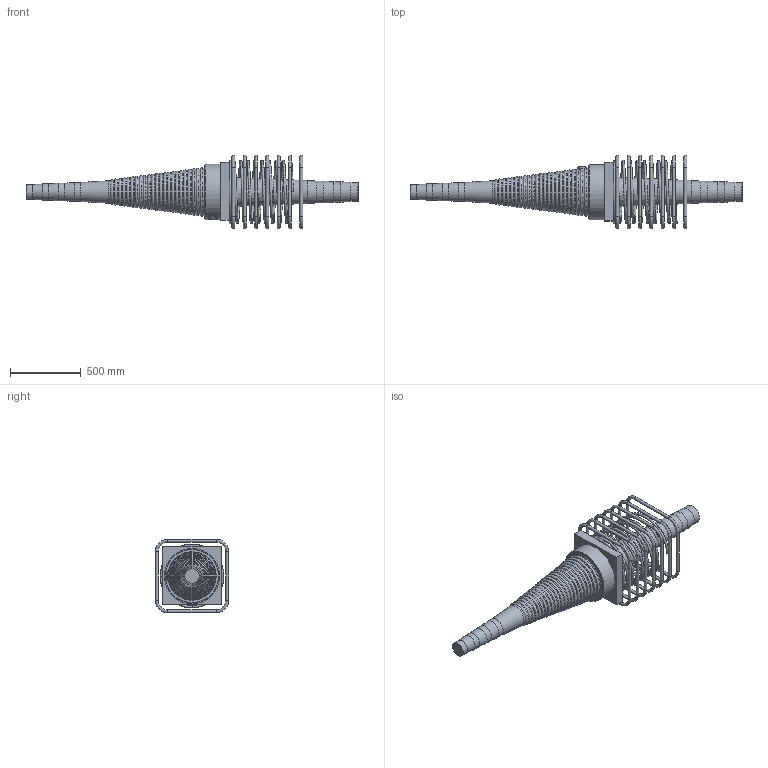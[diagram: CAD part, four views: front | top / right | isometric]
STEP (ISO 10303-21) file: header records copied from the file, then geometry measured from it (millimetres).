
FILE_DESCRIPTION(/* description */ (''),/* implementation_level */ '2;1');
FILE_NAME(/* name */ 'Z:\04 Publications\05 Give-out\BBR\6_3D_Models\BBR VT CONA CMI\BBR VT CONA CMI SP\02706\BBR VT CONA CMI SP 2706_Couler K Assembly_CS-34,28.stp',/* time_stamp */ '2017-05-09T10:02:53+02:00',/* author */ ('IP'),/* organization */ (''),/* preprocessor_version */ 'ST-DEVELOPER v16.1',/* originating_system */ 'Autodesk Inventor 2016',/* authorisation */ '');
FILE_SCHEMA (('AUTOMOTIVE_DESIGN { 1 0 10303 214 3 1 1 }'));
Products named in the file (1): BBR VT CONA CMI SP 2706_Couler K Assembly_CS-34,28
Bounding box: 2344.52 x 520 x 520 mm (x, y, z)
Volume: 94246197.6 mm3; surface area: 3269003.3 mm2
Topology: 9 solids, 9 shells, 904 faces, 2313 edges, 1480 vertices
Faces by surface type: bspline 400, plane 255, torus 112, cylinder 99, cone 30, sphere 8
Full cylindrical faces by diameter (mm): 20 x28, 34.089 x1, 57.089 x1, 104 x1, 114 x1, 124 x1, 134 x1, 375 x1, 390 x1
Entity records: 40652 total; most frequent: CARTESIAN_POINT 21531, ORIENTED_EDGE 4280, DIRECTION 2812, EDGE_CURVE 2137, VERTEX_POINT 1475, EDGE_LOOP 1147, AXIS2_PLACEMENT_3D 972, FACE_OUTER_BOUND 904
